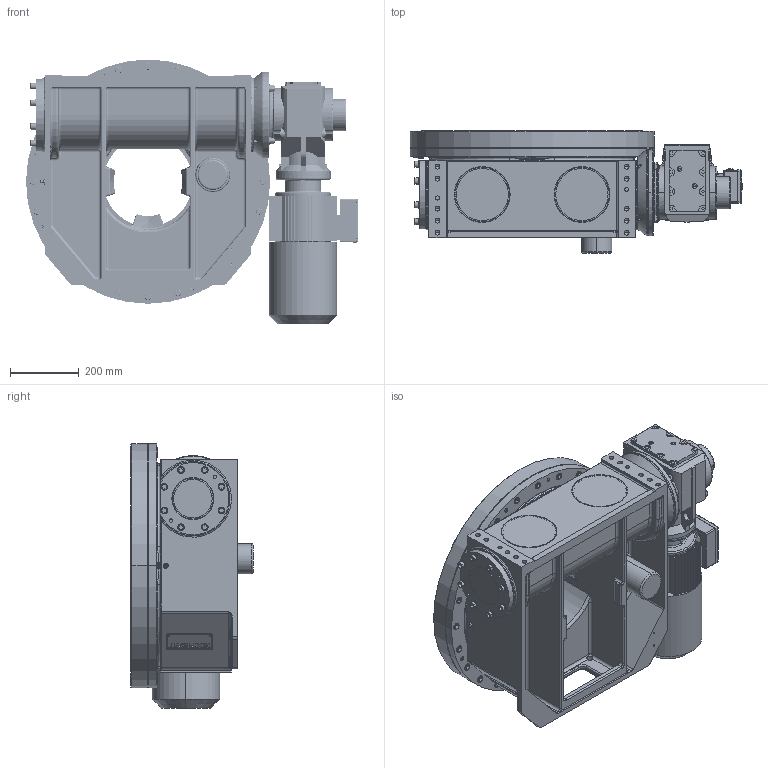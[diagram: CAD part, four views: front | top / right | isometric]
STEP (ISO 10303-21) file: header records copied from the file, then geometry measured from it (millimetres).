
FILE_DESCRIPTION((''),'2;1');
FILE_NAME('A6879','2009-07-08T',('mmueller'),('EXPERT Maschinenbau GmbH'),'PRO/ENGINEER BY PARAMETRIC TECHNOLOGY CORPORATION, 2007390','PRO/ENGINEER BY PARAMETRIC TECHNOLOGY CORPORATION, 2007390','');
FILE_SCHEMA(('CONFIG_CONTROL_DESIGN'));
Products named in the file (1): A6879
Bounding box: 965.6 x 354.92 x 770 mm (x, y, z)
Surface area: 5258397.7 mm2 (no closed solid volume)
Topology: 0 solids, 232 shells, 2934 faces, 7996 edges, 5293 vertices
Faces by surface type: plane 1112, cylinder 1085, cone 271, torus 261, bspline 146, sphere 59
Entity records: 99322 total; most frequent: CARTESIAN_POINT 24690, DIRECTION 16566, ORIENTED_EDGE 14027, EDGE_CURVE 7908, AXIS2_PLACEMENT_3D 6381, VERTEX_POINT 5293, VECTOR 3804, LINE 3804
